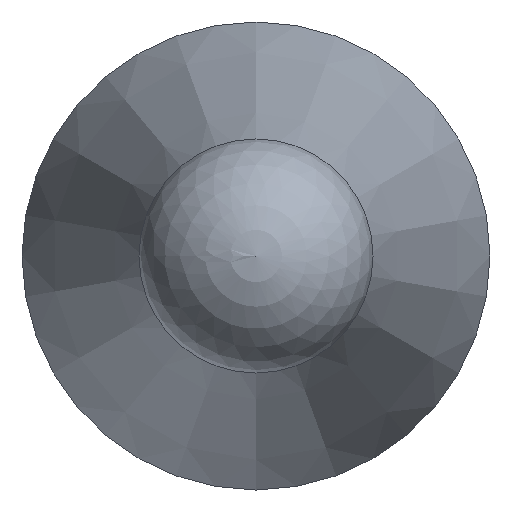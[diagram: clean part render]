
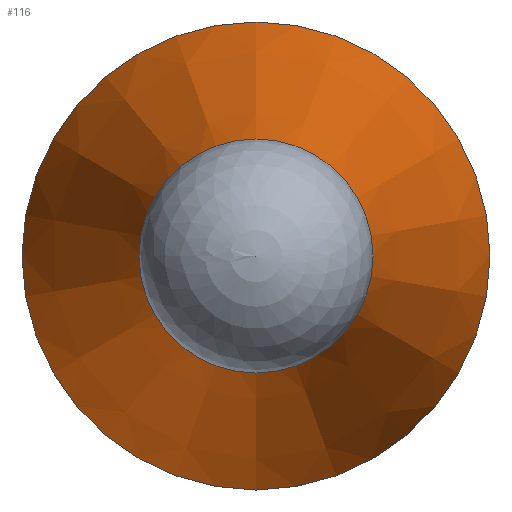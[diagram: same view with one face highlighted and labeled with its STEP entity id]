
A CAD part, left-side view. The second image highlights one B-rep face of the part: STEP entity #116.
In plain terms, the highlighted conical face has half-angle 15 degrees and reference radius 1.45 mm.
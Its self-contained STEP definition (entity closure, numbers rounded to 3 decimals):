
#100=CONICAL_SURFACE('',#182,1.45,15.);
#105=FACE_BOUND('',#130,.T.);
#106=FACE_BOUND('',#131,.T.);
#116=ADVANCED_FACE('',(#105,#106),#100,.T.);
#130=EDGE_LOOP('',(#144));
#131=EDGE_LOOP('',(#145));
#144=ORIENTED_EDGE('',*,*,#162,.T.);
#145=ORIENTED_EDGE('',*,*,#163,.F.);
#155=VERTEX_POINT('',#230);
#156=VERTEX_POINT('',#233);
#162=EDGE_CURVE('',#155,#155,#169,.T.);
#163=EDGE_CURVE('',#156,#156,#170,.T.);
#169=CIRCLE('',#179,3.);
#170=CIRCLE('',#181,1.45);
#179=AXIS2_PLACEMENT_3D('',#229,#200,#201);
#181=AXIS2_PLACEMENT_3D('',#232,#204,#205);
#182=AXIS2_PLACEMENT_3D('',#234,#206,#207);
#200=DIRECTION('',(-1.,0.,0.));
#201=DIRECTION('',(0.,0.,1.));
#204=DIRECTION('',(-1.,0.,0.));
#205=DIRECTION('',(0.,0.,1.));
#206=DIRECTION('',(1.,0.,0.));
#207=DIRECTION('',(0.,0.,-1.));
#229=CARTESIAN_POINT('',(7908.696,6103.288,0.));
#230=CARTESIAN_POINT('',(7908.696,6103.288,3.));
#232=CARTESIAN_POINT('',(7902.912,6103.288,0.));
#233=CARTESIAN_POINT('',(7902.912,6103.288,1.45));
#234=CARTESIAN_POINT('',(7902.912,6103.288,0.));
